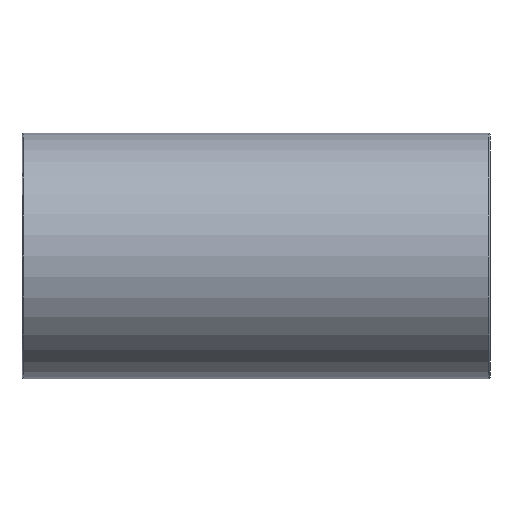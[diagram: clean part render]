
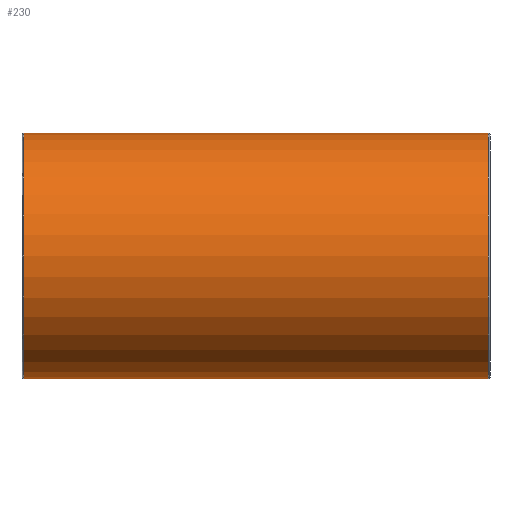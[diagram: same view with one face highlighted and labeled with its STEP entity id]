
A CAD part, front view. The second image highlights one B-rep face of the part: STEP entity #230.
In plain terms, the highlighted cylindrical face has radius 31 mm (diameter 62 mm), a full revolution.
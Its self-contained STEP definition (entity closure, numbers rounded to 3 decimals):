
#26=FACE_BOUND('',#93,.T.);
#27=FACE_BOUND('',#94,.T.);
#46=CIRCLE('',#255,31.);
#47=CIRCLE('',#256,31.);
#63=CYLINDRICAL_SURFACE('',#254,31.);
#72=FACE_OUTER_BOUND('',#92,.T.);
#92=EDGE_LOOP('',(#184));
#93=EDGE_LOOP('',(#185,#186));
#94=EDGE_LOOP('',(#187));
#130=ELLIPSE('',#250,45.454,31.);
#132=ELLIPSE('',#252,45.454,31.);
#136=VERTEX_POINT('',#426);
#137=VERTEX_POINT('',#427);
#138=VERTEX_POINT('',#483);
#139=VERTEX_POINT('',#485);
#157=EDGE_CURVE('',#136,#137,#130,.T.);
#159=EDGE_CURVE('',#137,#136,#132,.T.);
#161=EDGE_CURVE('',#138,#138,#46,.T.);
#162=EDGE_CURVE('',#139,#139,#47,.T.);
#184=ORIENTED_EDGE('',*,*,#161,.F.);
#185=ORIENTED_EDGE('',*,*,#159,.F.);
#186=ORIENTED_EDGE('',*,*,#157,.F.);
#187=ORIENTED_EDGE('',*,*,#162,.F.);
#230=ADVANCED_FACE('',(#72,#26,#27),#63,.T.);
#250=AXIS2_PLACEMENT_3D('',#428,#293,#294);
#252=AXIS2_PLACEMENT_3D('',#480,#297,#298);
#254=AXIS2_PLACEMENT_3D('',#482,#301,#302);
#255=AXIS2_PLACEMENT_3D('',#484,#303,#304);
#256=AXIS2_PLACEMENT_3D('',#486,#305,#306);
#293=DIRECTION('center_axis',(-0.682,0.731,0.));
#294=DIRECTION('ref_axis',(0.731,0.682,0.));
#297=DIRECTION('center_axis',(0.682,0.731,0.));
#298=DIRECTION('ref_axis',(-0.731,0.682,0.));
#301=DIRECTION('center_axis',(1.,0.,0.));
#302=DIRECTION('ref_axis',(0.,1.,0.));
#303=DIRECTION('center_axis',(-1.,0.,0.));
#304=DIRECTION('ref_axis',(0.,-1.,0.));
#305=DIRECTION('center_axis',(1.,0.,0.));
#306=DIRECTION('ref_axis',(0.,-1.,0.));
#426=CARTESIAN_POINT('',(0.,0.,31.));
#427=CARTESIAN_POINT('',(0.,0.,-31.));
#428=CARTESIAN_POINT('Origin',(0.,0.,0.));
#480=CARTESIAN_POINT('Origin',(0.,0.,0.));
#482=CARTESIAN_POINT('Origin',(0.,0.,
0.));
#483=CARTESIAN_POINT('',(-58.552,31.,0.));
#484=CARTESIAN_POINT('Origin',(-58.552,0.,0.));
#485=CARTESIAN_POINT('',(58.552,31.,0.));
#486=CARTESIAN_POINT('Origin',(58.552,0.,0.));
